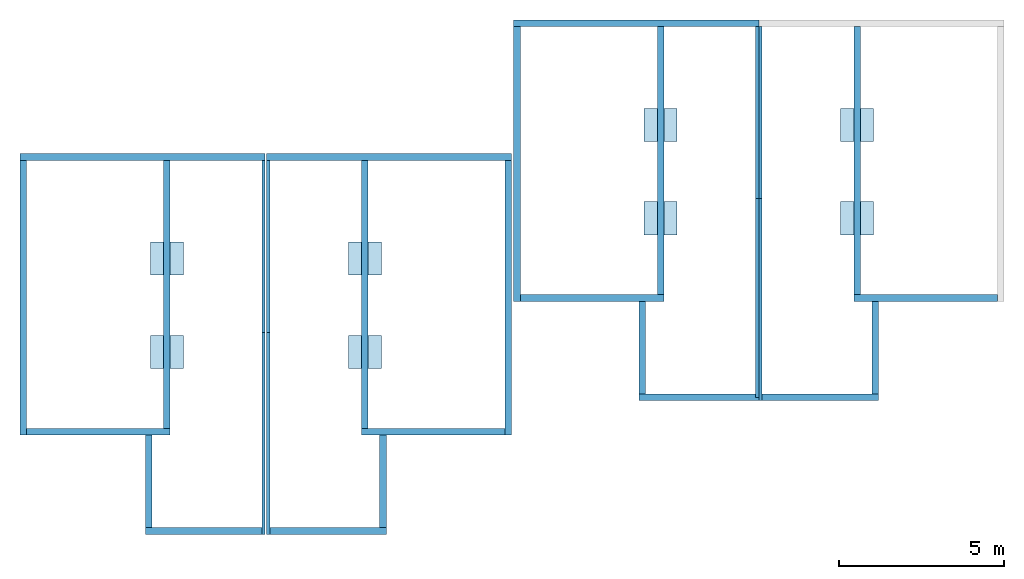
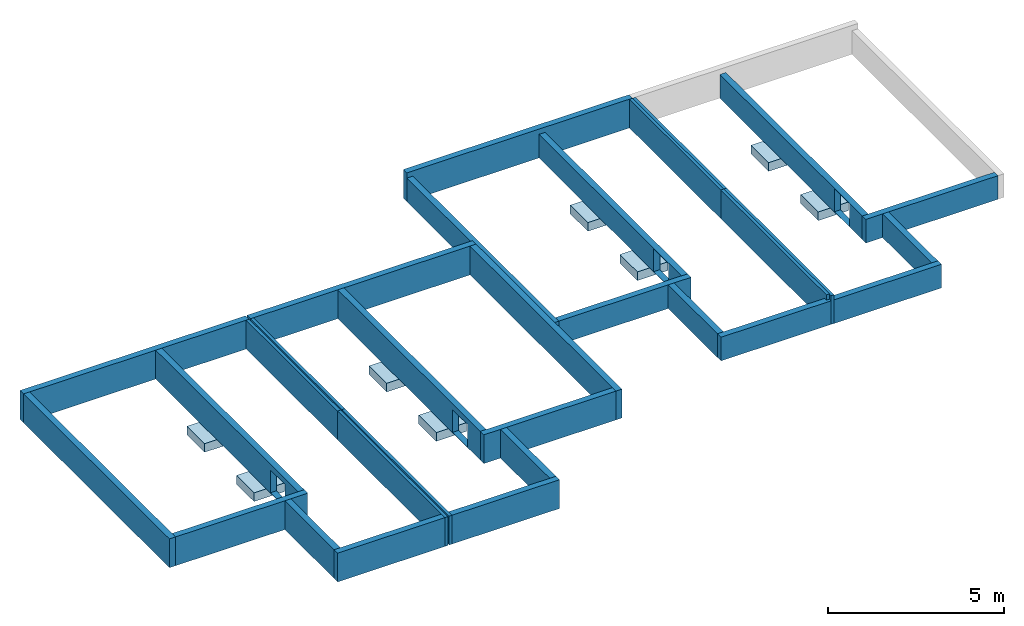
# One storey, part 1 of 2: 30 walls, 8 slabs, 4 openings.
"""IFC2X3 building model written with IfcOpenShell, lengths in metres."""

from ifc_helpers import new_model, entity, si_unit, converted_unit, derived_unit, direction, frame, frame_2d, origin, place, context, subcontext, project, spatial, polyline, rectangle, extrude, clip, bounded_halfspace, material, layer, layer_set, layer_usage, type_object, element, save


model = new_model("IFC2X3")

# Units and contexts
model_context = context("Model", 3, precision=1e-05, world=origin(), true_north=direction((6.12303176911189e-17, 1.0)))
body_context = subcontext(model_context, "Body", "Model", "MODEL_VIEW")
ifc_project = project(units=[si_unit("LENGTHUNIT", "METRE"), si_unit("AREAUNIT", "SQUARE_METRE"), si_unit("VOLUMEUNIT", "CUBIC_METRE"), converted_unit("PLANEANGLEUNIT", "DEGREE", entity("IfcRatioMeasure", 0.0174532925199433), si_unit("PLANEANGLEUNIT", "RADIAN"), dimensions=[0, 0, 0, 0, 0, 0, 0]), si_unit("MASSUNIT", "GRAM", prefix="KILO"), derived_unit("MASSDENSITYUNIT", [(si_unit("MASSUNIT", "GRAM", prefix="KILO"), 1), (si_unit("LENGTHUNIT", "METRE"), -3)]), si_unit("TIMEUNIT", "SECOND"), si_unit("FREQUENCYUNIT", "HERTZ"), si_unit("THERMODYNAMICTEMPERATUREUNIT", "DEGREE_CELSIUS"), derived_unit("THERMALTRANSMITTANCEUNIT", [(si_unit("MASSUNIT", "GRAM", prefix="KILO"), 1), (si_unit("THERMODYNAMICTEMPERATUREUNIT", "KELVIN"), -1), (si_unit("TIMEUNIT", "SECOND"), -3)]), derived_unit("VOLUMETRICFLOWRATEUNIT", [(si_unit("LENGTHUNIT", "METRE"), 3), (si_unit("TIMEUNIT", "SECOND"), -1)]), si_unit("ELECTRICCURRENTUNIT", "AMPERE"), si_unit("ELECTRICVOLTAGEUNIT", "VOLT"), si_unit("POWERUNIT", "WATT"), si_unit("FORCEUNIT", "NEWTON", prefix="KILO"), si_unit("ILLUMINANCEUNIT", "LUX"), si_unit("LUMINOUSFLUXUNIT", "LUMEN"), si_unit("LUMINOUSINTENSITYUNIT", "CANDELA"), derived_unit("USERDEFINED", [(si_unit("MASSUNIT", "GRAM", prefix="KILO"), -1), (si_unit("LENGTHUNIT", "METRE"), -2), (si_unit("TIMEUNIT", "SECOND"), 3), (si_unit("LUMINOUSFLUXUNIT", "LUMEN"), 1)]), derived_unit("LINEARVELOCITYUNIT", [(si_unit("LENGTHUNIT", "METRE"), 1), (si_unit("TIMEUNIT", "SECOND"), -1)]), si_unit("PRESSUREUNIT", "PASCAL"), derived_unit("USERDEFINED", [(si_unit("LENGTHUNIT", "METRE"), -2), (si_unit("MASSUNIT", "GRAM", prefix="KILO"), 1), (si_unit("TIMEUNIT", "SECOND"), -2)])], contexts=[model_context])

# Site, building, storey
site_placement = place(None, origin())
site = spatial("IfcSite", under=ifc_project, at=site_placement, Name="Surface", CompositionType="ELEMENT")
building_placement = place(site_placement, origin())
building = spatial("IfcBuilding", under=site, at=building_placement, CompositionType="ELEMENT")
storey_placement = place(building_placement, frame((0.0, 0.0, -0.8)))
storey = spatial("IfcBuildingStorey", under=building, at=storey_placement, Name="vs", CompositionType="ELEMENT", Elevation=-0.8)

# Slabs
ifc_material_1 = material(Name="Béton - Béton coulé sur place")
slab_type_1 = type_object("IfcSlabType", Name="1.00 x 1.00 x .30", PredefinedType="FLOOR", material=ifc_material_1)
slab_1_placement = place(storey_placement, origin())
element("IfcSlab", 1, at=slab_1_placement, inside=storey, type_object=slab_type_1, Name="Base rectangulaire:1.00 x 1.00 x .30", ObjectType="Base rectangulaire:1.00 x 1.00 x .30", PredefinedType="FLOOR", context=body_context, shape_type="SweptSolid", body=[
    extrude(rectangle(XDim=0.999999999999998, YDim=0.999999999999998, at=frame_2d((8.68749516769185e-15, -8.68749516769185e-15), x_axis=(1.0, 0.0))), frame((86.6967857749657, 89.2775239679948, -0.5), z_axis=(0.0, 0.0, 1.0), x_axis=(-1.0, 0.0, 0.0)), (0.0, 0.0, 1.0), 0.3),
    extrude(rectangle(XDim=0.999999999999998, YDim=0.999999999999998, at=frame_2d((8.68749516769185e-15, -8.68749516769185e-15), x_axis=(1.0, 0.0))), frame((86.6967857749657, 89.2775239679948, -0.5), z_axis=(0.0, 0.0, 1.0), x_axis=(-1.0, 0.0, 0.0)), (0.0, 0.0, 1.0), 0.3),
])
slab_type_2 = type_object("IfcSlabType", Name="1.00 x 1.00 x .30", PredefinedType="FLOOR", material=ifc_material_1)
slab_2_placement = place(storey_placement, origin())
element("IfcSlab", 2, at=slab_2_placement, inside=storey, type_object=slab_type_2, Name="Base rectangulaire:1.00 x 1.00 x .30", ObjectType="Base rectangulaire:1.00 x 1.00 x .30", PredefinedType="FLOOR", context=body_context, shape_type="SweptSolid", body=[
    extrude(rectangle(XDim=0.999999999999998, YDim=0.999999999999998, at=frame_2d((8.68749516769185e-15, -8.68749516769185e-15), x_axis=(1.0, 0.0))), frame((71.8246263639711, 85.2377566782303, -0.5), z_axis=(0.0, 0.0, 1.0), x_axis=(-1.0, 0.0, 0.0)), (0.0, 0.0, 1.0), 0.3),
    extrude(rectangle(XDim=0.999999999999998, YDim=0.999999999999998, at=frame_2d((8.68749516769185e-15, -8.68749516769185e-15), x_axis=(1.0, 0.0))), frame((71.8246263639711, 85.2377566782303, -0.5), z_axis=(0.0, 0.0, 1.0), x_axis=(-1.0, 0.0, 0.0)), (0.0, 0.0, 1.0), 0.3),
])
slab_type_3 = type_object("IfcSlabType", Name="1.00 x 1.00 x .30", PredefinedType="FLOOR", material=ifc_material_1)
slab_3_placement = place(storey_placement, origin())
element("IfcSlab", 3, at=slab_3_placement, inside=storey, type_object=slab_type_3, Name="Base rectangulaire:1.00 x 1.00 x .30", ObjectType="Base rectangulaire:1.00 x 1.00 x .30", PredefinedType="FLOOR", context=body_context, shape_type="SweptSolid", body=[
    extrude(rectangle(XDim=0.999999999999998, YDim=0.999999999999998, at=frame_2d((-8.68749516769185e-15, 2.6853519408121e-13), x_axis=(1.0, 0.0))), frame((65.8446263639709, 85.2377566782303, -0.5), z_axis=(0.0, 0.0, 1.0), x_axis=(0.0, -1.0, 0.0)), (0.0, 0.0, 1.0), 0.3),
    extrude(rectangle(XDim=0.999999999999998, YDim=0.999999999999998, at=frame_2d((-8.68749516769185e-15, 2.6853519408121e-13), x_axis=(1.0, 0.0))), frame((65.8446263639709, 85.2377566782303, -0.5), z_axis=(0.0, 0.0, 1.0), x_axis=(0.0, -1.0, 0.0)), (0.0, 0.0, 1.0), 0.3),
])
slab_type_4 = type_object("IfcSlabType", Name="1.00 x 1.00 x .30", PredefinedType="FLOOR", material=ifc_material_1)
slab_4_placement = place(storey_placement, origin())
element("IfcSlab", 4, at=slab_4_placement, inside=storey, type_object=slab_type_4, Name="Base rectangulaire:1.00 x 1.00 x .30", ObjectType="Base rectangulaire:1.00 x 1.00 x .30", PredefinedType="FLOOR", context=body_context, shape_type="SweptSolid", body=[
    extrude(rectangle(XDim=0.999999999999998, YDim=0.999999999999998, at=frame_2d((8.68749516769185e-15, 8.68749516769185e-15), x_axis=(1.0, 0.0))), frame((86.6967857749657, 86.4575239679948, -0.5), z_axis=(0.0, 0.0, 1.0), x_axis=(-1.0, 0.0, 0.0)), (0.0, 0.0, 1.0), 0.3),
    extrude(rectangle(XDim=0.999999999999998, YDim=0.999999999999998, at=frame_2d((8.68749516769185e-15, 8.68749516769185e-15), x_axis=(1.0, 0.0))), frame((86.6967857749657, 86.4575239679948, -0.5), z_axis=(0.0, 0.0, 1.0), x_axis=(-1.0, 0.0, 0.0)), (0.0, 0.0, 1.0), 0.3),
])
slab_type_5 = type_object("IfcSlabType", Name="1.00 x 1.00 x .30", PredefinedType="FLOOR", material=ifc_material_1)
slab_5_placement = place(storey_placement, origin())
element("IfcSlab", 5, at=slab_5_placement, inside=storey, type_object=slab_type_5, Name="Base rectangulaire:1.00 x 1.00 x .30", ObjectType="Base rectangulaire:1.00 x 1.00 x .30", PredefinedType="FLOOR", context=body_context, shape_type="SweptSolid", body=[
    extrude(rectangle(XDim=0.999999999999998, YDim=0.999999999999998, at=frame_2d((8.68749516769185e-15, -8.68749516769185e-15), x_axis=(1.0, 0.0))), frame((71.8246263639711, 82.4177566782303, -0.5), z_axis=(0.0, 0.0, 1.0), x_axis=(-1.0, 0.0, 0.0)), (0.0, 0.0, 1.0), 0.3),
    extrude(rectangle(XDim=0.999999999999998, YDim=0.999999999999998, at=frame_2d((8.68749516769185e-15, -8.68749516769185e-15), x_axis=(1.0, 0.0))), frame((71.8246263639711, 82.4177566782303, -0.5), z_axis=(0.0, 0.0, 1.0), x_axis=(-1.0, 0.0, 0.0)), (0.0, 0.0, 1.0), 0.3),
])
slab_type_6 = type_object("IfcSlabType", Name="1.00 x 1.00 x .30", PredefinedType="FLOOR", material=ifc_material_1)
slab_6_placement = place(storey_placement, origin())
element("IfcSlab", 6, at=slab_6_placement, inside=storey, type_object=slab_type_6, Name="Base rectangulaire:1.00 x 1.00 x .30", ObjectType="Base rectangulaire:1.00 x 1.00 x .30", PredefinedType="FLOOR", context=body_context, shape_type="SweptSolid", body=[
    extrude(rectangle(XDim=0.999999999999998, YDim=0.999999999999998, at=frame_2d((8.68749516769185e-15, 2.6853519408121e-13), x_axis=(1.0, 0.0))), frame((65.8446263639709, 82.4177566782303, -0.5), z_axis=(0.0, 0.0, 1.0), x_axis=(0.0, -1.0, 0.0)), (0.0, 0.0, 1.0), 0.3),
    extrude(rectangle(XDim=0.999999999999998, YDim=0.999999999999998, at=frame_2d((8.68749516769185e-15, 2.6853519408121e-13), x_axis=(1.0, 0.0))), frame((65.8446263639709, 82.4177566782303, -0.5), z_axis=(0.0, 0.0, 1.0), x_axis=(0.0, -1.0, 0.0)), (0.0, 0.0, 1.0), 0.3),
])
slab_type_7 = type_object("IfcSlabType", Name="1.00 x 1.00 x .30", PredefinedType="FLOOR", material=ifc_material_1)
slab_7_placement = place(storey_placement, origin())
element("IfcSlab", 7, at=slab_7_placement, inside=storey, type_object=slab_type_7, Name="Base rectangulaire:1.00 x 1.00 x .30", ObjectType="Base rectangulaire:1.00 x 1.00 x .30", PredefinedType="FLOOR", context=body_context, shape_type="SweptSolid", body=[
    extrude(rectangle(XDim=0.999999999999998, YDim=0.999999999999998, at=frame_2d((8.68749516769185e-15, 8.68749516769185e-15), x_axis=(1.0, 0.0))), frame((80.7610189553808, 89.2775239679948, -0.5), z_axis=(0.0, 0.0, 1.0), x_axis=(0.0, -1.0, 0.0)), (0.0, 0.0, 1.0), 0.3),
    extrude(rectangle(XDim=0.999999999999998, YDim=0.999999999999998, at=frame_2d((8.68749516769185e-15, 8.68749516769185e-15), x_axis=(1.0, 0.0))), frame((80.7610189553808, 89.2775239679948, -0.5), z_axis=(0.0, 0.0, 1.0), x_axis=(0.0, -1.0, 0.0)), (0.0, 0.0, 1.0), 0.3),
])
slab_type_8 = type_object("IfcSlabType", Name="1.00 x 1.00 x .30", PredefinedType="FLOOR", material=ifc_material_1)
slab_8_placement = place(storey_placement, origin())
element("IfcSlab", 8, at=slab_8_placement, inside=storey, type_object=slab_type_8, Name="Base rectangulaire:1.00 x 1.00 x .30", ObjectType="Base rectangulaire:1.00 x 1.00 x .30", PredefinedType="FLOOR", context=body_context, shape_type="SweptSolid", body=[
    extrude(rectangle(XDim=0.999999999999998, YDim=0.999999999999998, at=frame_2d((8.68749516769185e-15, 8.68749516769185e-15), x_axis=(1.0, 0.0))), frame((80.7610189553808, 86.4575239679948, -0.5), z_axis=(0.0, 0.0, 1.0), x_axis=(0.0, -1.0, 0.0)), (0.0, 0.0, 1.0), 0.3),
    extrude(rectangle(XDim=0.999999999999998, YDim=0.999999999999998, at=frame_2d((8.68749516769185e-15, 8.68749516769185e-15), x_axis=(1.0, 0.0))), frame((80.7610189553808, 86.4575239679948, -0.5), z_axis=(0.0, 0.0, 1.0), x_axis=(0.0, -1.0, 0.0)), (0.0, 0.0, 1.0), 0.3),
])

# Walls
ifc_material_2 = material(Name="Parpaing")
ifc_layer_1 = layer(ifc_material_2, 0.2)
ifc_layer_set_1 = layer_set([ifc_layer_1], Name="Mur de base:Ext. Parpaing 20")
ifc_layer_usage_1 = layer_usage(ifc_layer_set_1, "AXIS2", "NEGATIVE", 0.1)
wall_type_1 = type_object("IfcWallType", Name="Mur de base:Ext. Parpaing 20", PredefinedType="STANDARD", material=ifc_layer_set_1)
wall_1_placement = place(storey_placement, frame((90.9350487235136, 84.0475239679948, -0.2), z_axis=(0.0, 0.0, 1.0), x_axis=(-1.0, 0.0, 0.0)))
element("IfcWallStandardCase", 9, at=wall_1_placement, inside=storey, type_object=wall_type_1, material=ifc_layer_usage_1, Name="Mur de base:Ext. Parpaing 20", ObjectType="Mur de base:Ext. Parpaing 20", context=body_context, shape_type="Clipping", body=[
    clip(extrude(rectangle(XDim=4.33826294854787, YDim=0.199999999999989, at=frame_2d((2.16913147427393, 3.19883008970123e-15), x_axis=(-1.0, 0.0))), origin(), (0.0, 0.0, 1.0), 0.82), bounded_halfspace(frame((3.78826294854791, -0.0999999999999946, 0.82), z_axis=(0.0, 0.0, -1.0), x_axis=(-1.0, 0.0, 0.0)), True, frame((3.78826294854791, -0.0999999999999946, 0.82)), polyline([(0.0, 0.0), (0.349999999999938, 0.0), (0.549999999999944, 0.0), (0.549999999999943, 0.200000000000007), (0.0, 0.200000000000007), (0.0, 0.0)]))),
])
ifc_layer_usage_2 = layer_usage(ifc_layer_set_1, "AXIS2", "NEGATIVE", 0.1)
wall_2_placement = place(storey_placement, frame((83.8267857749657, 81.0475239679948, -0.2)))
element("IfcWallStandardCase", 10, at=wall_2_placement, inside=storey, type_object=wall_type_1, material=ifc_layer_usage_2, Name="Mur de base:Ext. Parpaing 20", ObjectType="Mur de base:Ext. Parpaing 20", context=body_context, shape_type="SweptSolid", body=[
    extrude(rectangle(XDim=3.51999999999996, YDim=0.199999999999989, at=frame_2d((1.75999999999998, 0.0), x_axis=(-1.0, 0.0))), origin(), (0.0, 0.0, 1.0), 0.82),
])
ifc_layer_usage_3 = layer_usage(ifc_layer_set_1, "AXIS2", "NEGATIVE", 0.1)
wall_3_placement = place(storey_placement, frame((87.2467857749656, 81.1475239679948, -0.2), z_axis=(0.0, 0.0, 1.0), x_axis=(0.0, 1.0, 0.0)))
element("IfcWallStandardCase", 11, at=wall_3_placement, inside=storey, type_object=wall_type_1, material=ifc_layer_usage_3, Name="Mur de base:Ext. Parpaing 20", ObjectType="Mur de base:Ext. Parpaing 20", context=body_context, shape_type="SweptSolid", body=[
    extrude(rectangle(XDim=2.80000000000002, YDim=0.199999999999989, at=frame_2d((1.40000000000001, 0.0), x_axis=(-1.0, 0.0))), origin(), (0.0, 0.0, 1.0), 0.82),
])

# Wall, opening
ifc_layer_usage_4 = layer_usage(ifc_layer_set_1, "AXIS2", "NEGATIVE", 0.1)
wall_4_placement = place(storey_placement, frame((86.6967857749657, 84.1475239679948, -0.2), z_axis=(0.0, 0.0, 1.0), x_axis=(0.0, 1.0, 0.0)))
wall_4 = element("IfcWallStandardCase", 12, at=wall_4_placement, inside=storey, type_object=wall_type_1, material=ifc_layer_usage_4, Name="Mur de base:Ext. Parpaing 20", ObjectType="Mur de base:Ext. Parpaing 20", context=body_context, shape_type="Clipping", body=[
    clip(extrude(rectangle(XDim=8.09999999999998, YDim=0.199999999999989, at=frame_2d((4.04999999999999, 0.0), x_axis=(-1.0, 0.0))), origin(), (0.0, 0.0, 1.0), 0.82), bounded_halfspace(frame((0.0, -0.100000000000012, 0.82), z_axis=(0.0, 0.0, -1.0), x_axis=(0.0, -1.0, 0.0)), True, frame((0.0, -0.100000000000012, 0.82)), polyline([(0.0, 0.0), (8.07999999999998, 0.0), (8.07999999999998, 0.200000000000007), (0.0, 0.200000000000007), (0.0, 0.0)]))),
])
opening_1_placement = place(wall_4_placement, origin())
element("IfcOpeningElement", 13, at=opening_1_placement, cuts=wall_4, Name="Mur de base:Ext. Parpaing 20", ObjectType="Opening", context=body_context, shape_type="SweptSolid", body=[
    extrude(rectangle(XDim=0.793145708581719, YDim=0.840999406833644, at=frame_2d((0.0, -8.65973959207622e-15), x_axis=(1.0, 0.0))), frame((1.15884276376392, -0.0999999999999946, 0.403427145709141), z_axis=(0.0, 1.0, 0.0), x_axis=(0.0, 0.0, -1.0)), (0.0, 0.0, 1.0), 0.199999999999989),
])

# Walls
ifc_layer_usage_5 = layer_usage(ifc_layer_set_1, "AXIS2", "NEGATIVE", 0.1)
wall_5_placement = place(storey_placement, frame((68.8546263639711, 88.3077566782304, -0.2)))
element("IfcWallStandardCase", 14, at=wall_5_placement, inside=storey, type_object=wall_type_1, material=ifc_layer_usage_5, Name="Mur de base:Ext. Parpaing 20", ObjectType="Mur de base:Ext. Parpaing 20", context=body_context, shape_type="SweptSolid", body=[
    extrude(rectangle(XDim=7.40826294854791, YDim=0.199999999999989, at=frame_2d((3.70413147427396, 3.51801920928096e-15), x_axis=(-1.0, 0.0))), origin(), (0.0, 0.0, 1.0), 1.0),
])
ifc_layer_usage_6 = layer_usage(ifc_layer_set_1, "AXIS2", "NEGATIVE", 0.1)
wall_6_placement = place(storey_placement, frame((76.162889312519, 88.2077566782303, -0.2), z_axis=(0.0, 0.0, 1.0), x_axis=(0.0, -1.0, 0.0)))
element("IfcWallStandardCase", 15, at=wall_6_placement, inside=storey, type_object=wall_type_1, material=ifc_layer_usage_6, Name="Mur de base:Ext. Parpaing 20", ObjectType="Mur de base:Ext. Parpaing 20", context=body_context, shape_type="SweptSolid", body=[
    extrude(rectangle(XDim=8.29999999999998, YDim=0.200000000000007, at=frame_2d((4.14999999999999, 0.0), x_axis=(-1.0, 0.0))), origin(), (0.0, 0.0, 1.0), 1.0),
])
ifc_layer_usage_7 = layer_usage(ifc_layer_set_1, "AXIS2", "NEGATIVE", 0.1)
wall_7_placement = place(storey_placement, frame((76.062889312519, 80.0077566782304, -0.2), z_axis=(0.0, 0.0, 1.0), x_axis=(-1.0, 0.0, 0.0)))
element("IfcWallStandardCase", 16, at=wall_7_placement, inside=storey, type_object=wall_type_1, material=ifc_layer_usage_7, Name="Mur de base:Ext. Parpaing 20", ObjectType="Mur de base:Ext. Parpaing 20", context=body_context, shape_type="SweptSolid", body=[
    extrude(rectangle(XDim=4.33826294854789, YDim=0.199999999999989, at=frame_2d((2.16913147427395, 3.19883008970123e-15), x_axis=(-1.0, 0.0))), origin(), (0.0, 0.0, 1.0), 1.0),
])
ifc_layer_usage_8 = layer_usage(ifc_layer_set_1, "AXIS2", "NEGATIVE", 0.1)
wall_8_placement = place(storey_placement, frame((68.9546263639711, 77.0077566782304, -0.2)))
element("IfcWallStandardCase", 17, at=wall_8_placement, inside=storey, type_object=wall_type_1, material=ifc_layer_usage_8, Name="Mur de base:Ext. Parpaing 20", ObjectType="Mur de base:Ext. Parpaing 20", context=body_context, shape_type="SweptSolid", body=[
    extrude(rectangle(XDim=3.51999999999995, YDim=0.200000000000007, at=frame_2d((1.75999999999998, 0.0), x_axis=(-1.0, 0.0))), origin(), (0.0, 0.0, 1.0), 1.0),
])
ifc_layer_usage_9 = layer_usage(ifc_layer_set_1, "AXIS2", "NEGATIVE", 0.1)
wall_9_placement = place(storey_placement, frame((72.3746263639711, 77.1077566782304, -0.2), z_axis=(0.0, 0.0, 1.0), x_axis=(0.0, 1.0, 0.0)))
element("IfcWallStandardCase", 18, at=wall_9_placement, inside=storey, type_object=wall_type_1, material=ifc_layer_usage_9, Name="Mur de base:Ext. Parpaing 20", ObjectType="Mur de base:Ext. Parpaing 20", context=body_context, shape_type="SweptSolid", body=[
    extrude(rectangle(XDim=2.80000000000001, YDim=0.200000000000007, at=frame_2d((1.40000000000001, 0.0), x_axis=(-1.0, 0.0))), origin(), (0.0, 0.0, 1.0), 1.0),
])

# Wall, opening
ifc_layer_usage_10 = layer_usage(ifc_layer_set_1, "AXIS2", "NEGATIVE", 0.1)
wall_10_placement = place(storey_placement, frame((71.8246263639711, 80.1077566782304, -0.2), z_axis=(0.0, 0.0, 1.0), x_axis=(0.0, 1.0, 0.0)))
wall_10 = element("IfcWallStandardCase", 19, at=wall_10_placement, inside=storey, type_object=wall_type_1, material=ifc_layer_usage_10, Name="Mur de base:Ext. Parpaing 20", ObjectType="Mur de base:Ext. Parpaing 20", context=body_context, shape_type="SweptSolid", body=[
    extrude(rectangle(XDim=8.09999999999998, YDim=0.200000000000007, at=frame_2d((4.04999999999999, 0.0), x_axis=(-1.0, 0.0))), origin(), (0.0, 0.0, 1.0), 1.0),
])
opening_2_placement = place(wall_10_placement, origin())
element("IfcOpeningElement", 20, at=opening_2_placement, cuts=wall_10, Name="Mur de base:Ext. Parpaing 20", ObjectType="Opening", context=body_context, shape_type="SweptSolid", body=[
    extrude(rectangle(XDim=0.793145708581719, YDim=0.840999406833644, at=frame_2d((0.0, 8.65973959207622e-15), x_axis=(1.0, 0.0))), frame((1.15884276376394, -0.100000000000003, 0.403427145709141), z_axis=(0.0, 1.0, 0.0), x_axis=(0.0, 0.0, -1.0)), (0.0, 0.0, 1.0), 0.200000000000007),
])

# Walls
ifc_layer_usage_11 = layer_usage(ifc_layer_set_1, "AXIS2", "POSITIVE", -0.1)
wall_11_placement = place(storey_placement, frame((68.8146263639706, 88.3077566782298, -0.2), z_axis=(0.0, 0.0, 1.0), x_axis=(-1.0, 0.0, 0.0)))
element("IfcWallStandardCase", 21, at=wall_11_placement, inside=storey, type_object=wall_type_1, material=ifc_layer_usage_11, Name="Mur de base:Ext. Parpaing 20", ObjectType="Mur de base:Ext. Parpaing 20", context=body_context, shape_type="SweptSolid", body=[
    extrude(rectangle(XDim=7.40826294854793, YDim=0.199999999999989, at=frame_2d((3.70413147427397, -1.9220736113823e-15), x_axis=(-1.0, 0.0))), origin(), (0.0, 0.0, 1.0), 1.0),
])
ifc_layer_usage_12 = layer_usage(ifc_layer_set_1, "AXIS2", "POSITIVE", -0.1)
wall_12_placement = place(storey_placement, frame((61.5063634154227, 88.2077566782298, -0.2), z_axis=(0.0, 0.0, 1.0), x_axis=(0.0, -1.0, 0.0)))
element("IfcWallStandardCase", 22, at=wall_12_placement, inside=storey, type_object=wall_type_1, material=ifc_layer_usage_12, Name="Mur de base:Ext. Parpaing 20", ObjectType="Mur de base:Ext. Parpaing 20", context=body_context, shape_type="SweptSolid", body=[
    extrude(rectangle(XDim=8.30000000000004, YDim=0.200000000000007, at=frame_2d((4.15000000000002, 2.99760216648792e-15), x_axis=(-1.0, 0.0))), origin(), (0.0, 0.0, 1.0), 1.0),
])
ifc_layer_usage_13 = layer_usage(ifc_layer_set_1, "AXIS2", "POSITIVE", -0.1)
wall_13_placement = place(storey_placement, frame((61.6063634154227, 80.0077566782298, -0.2)))
element("IfcWallStandardCase", 23, at=wall_13_placement, inside=storey, type_object=wall_type_1, material=ifc_layer_usage_13, Name="Mur de base:Ext. Parpaing 20", ObjectType="Mur de base:Ext. Parpaing 20", context=body_context, shape_type="SweptSolid", body=[
    extrude(rectangle(XDim=4.3382629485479, YDim=0.199999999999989, at=frame_2d((2.16913147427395, -1.52655665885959e-16), x_axis=(-1.0, 0.0))), origin(), (0.0, 0.0, 1.0), 1.0),
])
ifc_layer_usage_14 = layer_usage(ifc_layer_set_1, "AXIS2", "POSITIVE", -0.1)
wall_14_placement = place(storey_placement, frame((68.7146263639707, 77.0077566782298, -0.2), z_axis=(0.0, 0.0, 1.0), x_axis=(-1.0, 0.0, 0.0)))
element("IfcWallStandardCase", 24, at=wall_14_placement, inside=storey, type_object=wall_type_1, material=ifc_layer_usage_14, Name="Mur de base:Ext. Parpaing 20", ObjectType="Mur de base:Ext. Parpaing 20", context=body_context, shape_type="SweptSolid", body=[
    extrude(rectangle(XDim=3.51999999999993, YDim=0.200000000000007, at=frame_2d((1.75999999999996, -2.92821322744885e-15), x_axis=(-1.0, 0.0))), origin(), (0.0, 0.0, 1.0), 1.0),
])
ifc_layer_usage_15 = layer_usage(ifc_layer_set_1, "AXIS2", "POSITIVE", -0.1)
wall_15_placement = place(storey_placement, frame((65.2946263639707, 77.1077566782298, -0.2), z_axis=(0.0, 0.0, 1.0), x_axis=(0.0, 1.0, 0.0)))
element("IfcWallStandardCase", 25, at=wall_15_placement, inside=storey, type_object=wall_type_1, material=ifc_layer_usage_15, Name="Mur de base:Ext. Parpaing 20", ObjectType="Mur de base:Ext. Parpaing 20", context=body_context, shape_type="SweptSolid", body=[
    extrude(rectangle(XDim=2.8, YDim=0.200000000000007, at=frame_2d((1.4, 3.77475828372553e-15), x_axis=(-1.0, 0.0))), origin(), (0.0, 0.0, 1.0), 1.0),
])

# Wall, opening
ifc_layer_usage_16 = layer_usage(ifc_layer_set_1, "AXIS2", "POSITIVE", -0.1)
wall_16_placement = place(storey_placement, frame((65.8446263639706, 80.1077566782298, -0.2), z_axis=(0.0, 0.0, 1.0), x_axis=(0.0, 1.0, 0.0)))
wall_16 = element("IfcWallStandardCase", 26, at=wall_16_placement, inside=storey, type_object=wall_type_1, material=ifc_layer_usage_16, Name="Mur de base:Ext. Parpaing 20", ObjectType="Mur de base:Ext. Parpaing 20", context=body_context, shape_type="SweptSolid", body=[
    extrude(rectangle(XDim=8.10000000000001, YDim=0.200000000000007, at=frame_2d((4.05000000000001, -6.73072708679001e-16), x_axis=(-1.0, 0.0))), origin(), (0.0, 0.0, 1.0), 1.0),
])
opening_3_placement = place(wall_16_placement, origin())
element("IfcOpeningElement", 27, at=opening_3_placement, cuts=wall_16, Name="Mur de base:Ext. Parpaing 20", ObjectType="Opening", context=body_context, shape_type="SweptSolid", body=[
    extrude(rectangle(XDim=0.793145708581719, YDim=0.840999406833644, at=frame_2d((0.0, -8.65973959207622e-15), x_axis=(1.0, 0.0))), frame((1.15884276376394, -0.100000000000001, 0.403427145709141), z_axis=(0.0, 1.0, 0.0), x_axis=(0.0, 0.0, -1.0)), (0.0, 0.0, 1.0), 0.200000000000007),
])

# Walls
ifc_layer_usage_17 = layer_usage(ifc_layer_set_1, "AXIS2", "POSITIVE", -0.1)
wall_17_placement = place(storey_placement, frame((83.7267857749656, 92.3475239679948, -0.2), z_axis=(0.0, 0.0, 1.0), x_axis=(-1.0, 0.0, 0.0)))
element("IfcWallStandardCase", 28, at=wall_17_placement, inside=storey, type_object=wall_type_1, material=ifc_layer_usage_17, Name="Mur de base:Ext. Parpaing 20", ObjectType="Mur de base:Ext. Parpaing 20", context=body_context, shape_type="SweptSolid", body=[
    extrude(rectangle(XDim=7.40402976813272, YDim=0.199999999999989, at=frame_2d((3.70201488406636, -3.51108031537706e-15), x_axis=(-1.0, 0.0))), origin(), (0.0, 0.0, 1.0), 1.0),
])
ifc_layer_usage_18 = layer_usage(ifc_layer_set_1, "AXIS2", "POSITIVE", -0.1)
wall_18_placement = place(storey_placement, frame((76.4227560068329, 92.2475239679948, -0.2), z_axis=(0.0, 0.0, 1.0), x_axis=(0.0, -1.0, 0.0)))
element("IfcWallStandardCase", 29, at=wall_18_placement, inside=storey, type_object=wall_type_1, material=ifc_layer_usage_18, Name="Mur de base:Ext. Parpaing 20", ObjectType="Mur de base:Ext. Parpaing 20", context=body_context, shape_type="SweptSolid", body=[
    extrude(rectangle(XDim=8.30000000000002, YDim=0.200000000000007, at=frame_2d((4.15000000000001, 0.0), x_axis=(-1.0, 0.0))), origin(), (0.0, 0.0, 1.0), 0.82),
])
ifc_layer_usage_19 = layer_usage(ifc_layer_set_1, "AXIS2", "POSITIVE", -0.1)
wall_19_placement = place(storey_placement, frame((76.5227560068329, 84.0475239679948, -0.2)))
element("IfcWallStandardCase", 30, at=wall_19_placement, inside=storey, type_object=wall_type_1, material=ifc_layer_usage_19, Name="Mur de base:Ext. Parpaing 20", ObjectType="Mur de base:Ext. Parpaing 20", context=body_context, shape_type="Clipping", body=[
    clip(extrude(rectangle(XDim=4.33826294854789, YDim=0.199999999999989, at=frame_2d((2.16913147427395, -3.19883008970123e-15), x_axis=(-1.0, 0.0))), origin(), (0.0, 0.0, 1.0), 0.82), bounded_halfspace(frame((3.78826294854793, -0.100000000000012, 0.82), z_axis=(0.0, 0.0, -1.0), x_axis=(0.0, -1.0, 0.0)), True, frame((3.78826294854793, -0.100000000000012, 0.82)), polyline([(0.0, 0.0), (0.549999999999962, 0.0), (0.549999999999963, 0.199999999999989), (0.349999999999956, 0.200000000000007), (0.0, 0.200000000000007), (0.0, 0.0)]))),
])
ifc_layer_usage_20 = layer_usage(ifc_layer_set_1, "AXIS2", "POSITIVE", -0.1)
wall_20_placement = place(storey_placement, frame((83.7267857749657, 81.0475239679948, -0.2), z_axis=(0.0, 0.0, 1.0), x_axis=(-1.0, 0.0, 0.0)))
element("IfcWallStandardCase", 31, at=wall_20_placement, inside=storey, type_object=wall_type_1, material=ifc_layer_usage_20, Name="Mur de base:Ext. Parpaing 20", ObjectType="Mur de base:Ext. Parpaing 20", context=body_context, shape_type="SweptSolid", body=[
    extrude(rectangle(XDim=3.61576681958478, YDim=0.199999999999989, at=frame_2d((1.80788340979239, 0.0), x_axis=(-1.0, 0.0))), origin(), (0.0, 0.0, 1.0), 0.82),
])
ifc_layer_usage_21 = layer_usage(ifc_layer_set_1, "AXIS2", "POSITIVE", -0.1)
wall_21_placement = place(storey_placement, frame((80.2110189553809, 81.1475239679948, -0.2), z_axis=(0.0, 0.0, 1.0), x_axis=(0.0, 1.0, 0.0)))
element("IfcWallStandardCase", 32, at=wall_21_placement, inside=storey, type_object=wall_type_1, material=ifc_layer_usage_21, Name="Mur de base:Ext. Parpaing 20", ObjectType="Mur de base:Ext. Parpaing 20", context=body_context, shape_type="SweptSolid", body=[
    extrude(rectangle(XDim=2.79999999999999, YDim=0.199999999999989, at=frame_2d((1.39999999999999, 0.0), x_axis=(-1.0, 0.0))), origin(), (0.0, 0.0, 1.0), 0.82),
])

# Wall, opening
ifc_layer_usage_22 = layer_usage(ifc_layer_set_1, "AXIS2", "POSITIVE", -0.1)
wall_22_placement = place(storey_placement, frame((80.7610189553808, 84.1475239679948, -0.2), z_axis=(0.0, 0.0, 1.0), x_axis=(0.0, 1.0, 0.0)))
wall_22 = element("IfcWallStandardCase", 33, at=wall_22_placement, inside=storey, type_object=wall_type_1, material=ifc_layer_usage_22, Name="Mur de base:Ext. Parpaing 20", ObjectType="Mur de base:Ext. Parpaing 20", context=body_context, shape_type="Clipping", body=[
    clip(extrude(rectangle(XDim=8.10000000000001, YDim=0.199999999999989, at=frame_2d((4.05000000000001, 0.0), x_axis=(-1.0, 0.0))), origin(), (0.0, 0.0, 1.0), 0.82), bounded_halfspace(frame((0.0, -0.100000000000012, 0.82), z_axis=(0.0, 0.0, -1.0), x_axis=(-1.0, 0.0, 0.0)), True, frame((0.0, -0.100000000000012, 0.82)), polyline([(0.0, 0.0), (8.08, 0.0), (8.08, 0.200000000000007), (0.0, 0.200000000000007), (0.0, 0.0)]))),
])
opening_4_placement = place(wall_22_placement, origin())
element("IfcOpeningElement", 34, at=opening_4_placement, cuts=wall_22, Name="Mur de base:Ext. Parpaing 20", ObjectType="Opening", context=body_context, shape_type="SweptSolid", body=[
    extrude(rectangle(XDim=0.793145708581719, YDim=0.840999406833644, at=frame_2d((0.0, -8.65973959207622e-15), x_axis=(1.0, 0.0))), frame((1.15884276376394, -0.0999999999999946, 0.403427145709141), z_axis=(0.0, 1.0, 0.0), x_axis=(0.0, 0.0, -1.0)), (0.0, 0.0, 1.0), 0.199999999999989),
])

# Walls
ifc_layer_2 = layer(ifc_material_2, 0.1)
ifc_layer_set_2 = layer_set([ifc_layer_2], Name="Mur de base:Ext. Parpaing 10")
ifc_layer_usage_23 = layer_usage(ifc_layer_set_2, "AXIS2", "NEGATIVE", 0.05)
wall_type_2 = type_object("IfcWallType", Name="Mur de base:Ext. Parpaing 10", PredefinedType="STANDARD", material=ifc_layer_set_2)
wall_23_placement = place(storey_placement, frame((83.7767857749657, 87.0513363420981, -0.2), z_axis=(0.0, 0.0, 1.0), x_axis=(0.0, 1.0, 0.0)))
element("IfcWallStandardCase", 35, at=wall_23_placement, inside=storey, type_object=wall_type_2, material=ifc_layer_usage_23, Name="Mur de base:Ext. Parpaing 10", ObjectType="Mur de base:Ext. Parpaing 10", context=body_context, shape_type="SweptSolid", body=[
    extrude(rectangle(XDim=5.19618762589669, YDim=0.100000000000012, at=frame_2d((2.59809381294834, 0.0), x_axis=(-1.0, 0.0))), origin(), (0.0, 0.0, 1.0), 1.0),
])
ifc_layer_usage_24 = layer_usage(ifc_layer_set_2, "AXIS2", "NEGATIVE", 0.05)
wall_24_placement = place(storey_placement, frame((83.7767857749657, 87.0513363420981, -0.2), z_axis=(0.0, 0.0, 1.0), x_axis=(0.0, -1.0, 0.0)))
element("IfcWallStandardCase", 36, at=wall_24_placement, inside=storey, type_object=wall_type_2, material=ifc_layer_usage_24, Name="Mur de base:Ext. Parpaing 10", ObjectType="Mur de base:Ext. Parpaing 10", context=body_context, shape_type="SweptSolid", body=[
    extrude(rectangle(XDim=6.10381237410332, YDim=0.100000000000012, at=frame_2d((3.05190618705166, 0.0), x_axis=(-1.0, 0.0))), origin(), (0.0, 0.0, 1.0), 1.0),
])
ifc_layer_usage_25 = layer_usage(ifc_layer_set_2, "AXIS2", "NEGATIVE", 0.05)
wall_25_placement = place(storey_placement, frame((68.9046263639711, 83.0115690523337, -0.2), z_axis=(0.0, 0.0, 1.0), x_axis=(0.0, 1.0, 0.0)))
element("IfcWallStandardCase", 37, at=wall_25_placement, inside=storey, type_object=wall_type_2, material=ifc_layer_usage_25, Name="Mur de base:Ext. Parpaing 10", ObjectType="Mur de base:Ext. Parpaing 10", context=body_context, shape_type="SweptSolid", body=[
    extrude(rectangle(XDim=5.19618762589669, YDim=0.0999999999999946, at=frame_2d((2.59809381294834, 0.0), x_axis=(-1.0, 0.0))), origin(), (0.0, 0.0, 1.0), 1.0),
])
ifc_layer_usage_26 = layer_usage(ifc_layer_set_2, "AXIS2", "NEGATIVE", 0.05)
wall_26_placement = place(storey_placement, frame((68.9046263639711, 83.0115690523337, -0.2), z_axis=(0.0, 0.0, 1.0), x_axis=(0.0, -1.0, 0.0)))
element("IfcWallStandardCase", 38, at=wall_26_placement, inside=storey, type_object=wall_type_2, material=ifc_layer_usage_26, Name="Mur de base:Ext. Parpaing 10", ObjectType="Mur de base:Ext. Parpaing 10", context=body_context, shape_type="SweptSolid", body=[
    extrude(rectangle(XDim=6.10381237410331, YDim=0.0999999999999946, at=frame_2d((3.05190618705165, 0.0), x_axis=(-1.0, 0.0))), origin(), (0.0, 0.0, 1.0), 1.0),
])
ifc_layer_usage_27 = layer_usage(ifc_layer_set_2, "AXIS2", "POSITIVE", -0.05)
wall_27_placement = place(storey_placement, frame((68.7646263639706, 83.0115690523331, -0.2), z_axis=(0.0, 0.0, 1.0), x_axis=(0.0, 1.0, 0.0)))
element("IfcWallStandardCase", 39, at=wall_27_placement, inside=storey, type_object=wall_type_2, material=ifc_layer_usage_27, Name="Mur de base:Ext. Parpaing 10", ObjectType="Mur de base:Ext. Parpaing 10", context=body_context, shape_type="SweptSolid", body=[
    extrude(rectangle(XDim=5.19618762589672, YDim=0.0999999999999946, at=frame_2d((2.59809381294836, 2.18575157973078e-16), x_axis=(-1.0, 0.0))), origin(), (0.0, 0.0, 1.0), 1.0),
])
ifc_layer_usage_28 = layer_usage(ifc_layer_set_2, "AXIS2", "POSITIVE", -0.05)
wall_28_placement = place(storey_placement, frame((68.7646263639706, 83.0115690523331, -0.2), z_axis=(0.0, 0.0, 1.0), x_axis=(0.0, -1.0, 0.0)))
element("IfcWallStandardCase", 40, at=wall_28_placement, inside=storey, type_object=wall_type_2, material=ifc_layer_usage_28, Name="Mur de base:Ext. Parpaing 10", ObjectType="Mur de base:Ext. Parpaing 10", context=body_context, shape_type="SweptSolid", body=[
    extrude(rectangle(XDim=6.10381237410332, YDim=0.0999999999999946, at=frame_2d((3.05190618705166, 1.56125112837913e-15), x_axis=(-1.0, 0.0))), origin(), (0.0, 0.0, 1.0), 1.0),
])
ifc_layer_usage_29 = layer_usage(ifc_layer_set_2, "AXIS2", "POSITIVE", -0.05)
wall_29_placement = place(storey_placement, frame((83.6810189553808, 87.0513363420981, -0.2), z_axis=(0.0, 0.0, 1.0), x_axis=(0.0, 1.0, 0.0)))
element("IfcWallStandardCase", 41, at=wall_29_placement, inside=storey, type_object=wall_type_2, material=ifc_layer_usage_29, Name="Mur de base:Ext. Parpaing 10", ObjectType="Mur de base:Ext. Parpaing 10", context=body_context, shape_type="SweptSolid", body=[
    extrude(rectangle(XDim=5.19618762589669, YDim=0.100000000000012, at=frame_2d((2.59809381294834, 0.0), x_axis=(-1.0, 0.0))), origin(), (0.0, 0.0, 1.0), 1.0),
])
ifc_layer_usage_30 = layer_usage(ifc_layer_set_2, "AXIS2", "POSITIVE", -0.05)
wall_30_placement = place(storey_placement, frame((83.6810189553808, 87.0513363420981, -0.2), z_axis=(0.0, 0.0, 1.0), x_axis=(0.0, -1.0, 0.0)))
element("IfcWallStandardCase", 42, at=wall_30_placement, inside=storey, type_object=wall_type_2, material=ifc_layer_usage_30, Name="Mur de base:Ext. Parpaing 10", ObjectType="Mur de base:Ext. Parpaing 10", context=body_context, shape_type="SweptSolid", body=[
    extrude(rectangle(XDim=6.00381237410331, YDim=0.100000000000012, at=frame_2d((3.00190618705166, 0.0), x_axis=(-1.0, 0.0))), origin(), (0.0, 0.0, 1.0), 1.0),
])

save(model, "model.ifc")
